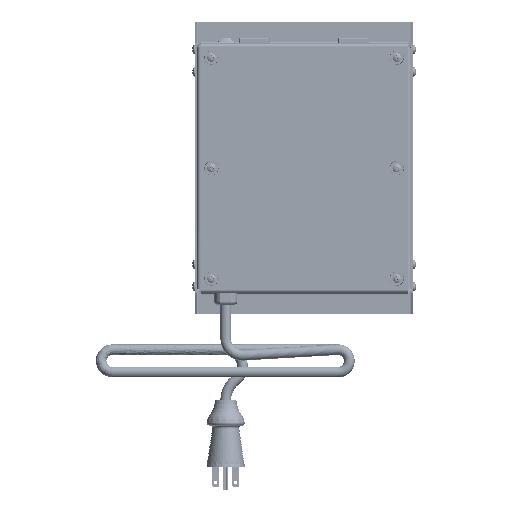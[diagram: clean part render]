
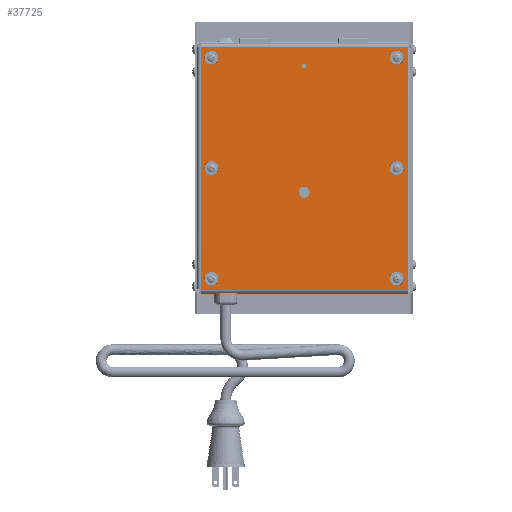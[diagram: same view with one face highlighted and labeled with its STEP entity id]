
A CAD part, front view. The second image highlights one B-rep face of the part: STEP entity #37725.
In plain terms, the highlighted planar face has unit normal (0, -1, 0).
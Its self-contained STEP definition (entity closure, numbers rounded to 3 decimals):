
#312=CIRCLE('',#39541,0.107);
#314=CIRCLE('',#39544,0.107);
#316=CIRCLE('',#39547,0.107);
#318=CIRCLE('',#39550,0.082);
#320=CIRCLE('',#39553,0.107);
#322=CIRCLE('',#39556,0.107);
#324=CIRCLE('',#39559,0.107);
#326=CIRCLE('',#39562,0.193);
#2933=FACE_BOUND('',#7794,.T.);
#2934=FACE_BOUND('',#7795,.T.);
#2935=FACE_BOUND('',#7796,.T.);
#2936=FACE_BOUND('',#7797,.T.);
#2937=FACE_BOUND('',#7798,.T.);
#2938=FACE_BOUND('',#7799,.T.);
#2939=FACE_BOUND('',#7800,.T.);
#2940=FACE_BOUND('',#7801,.T.);
#5829=FACE_OUTER_BOUND('',#7793,.T.);
#7793=EDGE_LOOP('',(#28886,#28887,#28888,#28889));
#7794=EDGE_LOOP('',(#28890));
#7795=EDGE_LOOP('',(#28891));
#7796=EDGE_LOOP('',(#28892));
#7797=EDGE_LOOP('',(#28893));
#7798=EDGE_LOOP('',(#28894));
#7799=EDGE_LOOP('',(#28895));
#7800=EDGE_LOOP('',(#28896));
#7801=EDGE_LOOP('',(#28897));
#11936=LINE('',#58576,#14899);
#11961=LINE('',#58803,#14924);
#11974=LINE('',#58910,#14937);
#11975=LINE('',#58912,#14938);
#14899=VECTOR('',#45223,0.394);
#14924=VECTOR('',#45284,0.394);
#14937=VECTOR('',#45331,0.394);
#14938=VECTOR('',#45334,0.394);
#17527=VERTEX_POINT('',#58179);
#17529=VERTEX_POINT('',#58185);
#17531=VERTEX_POINT('',#58191);
#17533=VERTEX_POINT('',#58197);
#17535=VERTEX_POINT('',#58203);
#17537=VERTEX_POINT('',#58209);
#17539=VERTEX_POINT('',#58215);
#17541=VERTEX_POINT('',#58221);
#17630=VERTEX_POINT('',#58567);
#17631=VERTEX_POINT('',#58575);
#17645=VERTEX_POINT('',#58794);
#17646=VERTEX_POINT('',#58802);
#21520=EDGE_CURVE('',#17527,#17527,#312,.T.);
#21523=EDGE_CURVE('',#17529,#17529,#314,.T.);
#21526=EDGE_CURVE('',#17531,#17531,#316,.T.);
#21529=EDGE_CURVE('',#17533,#17533,#318,.T.);
#21532=EDGE_CURVE('',#17535,#17535,#320,.T.);
#21535=EDGE_CURVE('',#17537,#17537,#322,.T.);
#21538=EDGE_CURVE('',#17539,#17539,#324,.T.);
#21541=EDGE_CURVE('',#17541,#17541,#326,.T.);
#21688=EDGE_CURVE('',#17631,#17630,#11936,.T.);
#21725=EDGE_CURVE('',#17646,#17645,#11961,.T.);
#21749=EDGE_CURVE('',#17645,#17631,#11974,.T.);
#21750=EDGE_CURVE('',#17630,#17646,#11975,.T.);
#28886=ORIENTED_EDGE('',*,*,#21688,.T.);
#28887=ORIENTED_EDGE('',*,*,#21750,.T.);
#28888=ORIENTED_EDGE('',*,*,#21725,.T.);
#28889=ORIENTED_EDGE('',*,*,#21749,.T.);
#28890=ORIENTED_EDGE('',*,*,#21520,.T.);
#28891=ORIENTED_EDGE('',*,*,#21523,.T.);
#28892=ORIENTED_EDGE('',*,*,#21526,.T.);
#28893=ORIENTED_EDGE('',*,*,#21529,.T.);
#28894=ORIENTED_EDGE('',*,*,#21532,.T.);
#28895=ORIENTED_EDGE('',*,*,#21535,.T.);
#28896=ORIENTED_EDGE('',*,*,#21538,.T.);
#28897=ORIENTED_EDGE('',*,*,#21541,.T.);
#35899=PLANE('',#39681);
#37725=ADVANCED_FACE('',(#5829,#2933,#2934,#2935,#2936,#2937,#2938,#2939,
#2940),#35899,.F.);
#39541=AXIS2_PLACEMENT_3D('',#58180,#44892,#44893);
#39544=AXIS2_PLACEMENT_3D('',#58186,#44899,#44900);
#39547=AXIS2_PLACEMENT_3D('',#58192,#44906,#44907);
#39550=AXIS2_PLACEMENT_3D('',#58198,#44913,#44914);
#39553=AXIS2_PLACEMENT_3D('',#58204,#44920,#44921);
#39556=AXIS2_PLACEMENT_3D('',#58210,#44927,#44928);
#39559=AXIS2_PLACEMENT_3D('',#58216,#44934,#44935);
#39562=AXIS2_PLACEMENT_3D('',#58222,#44941,#44942);
#39681=AXIS2_PLACEMENT_3D('',#58911,#45332,#45333);
#44892=DIRECTION('center_axis',(0.,1.,0.));
#44893=DIRECTION('ref_axis',(-1.,0.,0.));
#44899=DIRECTION('center_axis',(0.,1.,0.));
#44900=DIRECTION('ref_axis',(-1.,0.,0.));
#44906=DIRECTION('center_axis',(0.,1.,0.));
#44907=DIRECTION('ref_axis',(-1.,0.,0.));
#44913=DIRECTION('center_axis',(0.,1.,0.));
#44914=DIRECTION('ref_axis',(-1.,0.,0.));
#44920=DIRECTION('center_axis',(0.,1.,0.));
#44921=DIRECTION('ref_axis',(-1.,0.,0.));
#44927=DIRECTION('center_axis',(0.,1.,0.));
#44928=DIRECTION('ref_axis',(-1.,0.,0.));
#44934=DIRECTION('center_axis',(0.,1.,0.));
#44935=DIRECTION('ref_axis',(-1.,0.,0.));
#44941=DIRECTION('center_axis',(0.,1.,0.));
#44942=DIRECTION('ref_axis',(-1.,0.,0.));
#45223=DIRECTION('',(0.,0.,-1.));
#45284=DIRECTION('',(0.,0.,1.));
#45331=DIRECTION('',(-1.,0.,0.));
#45332=DIRECTION('center_axis',(0.,1.,0.));
#45333=DIRECTION('ref_axis',(0.,0.,1.));
#45334=DIRECTION('',(1.,0.,0.));
#58179=CARTESIAN_POINT('',(-3.144,0.,3.875));
#58180=CARTESIAN_POINT('Origin',(-3.25,0.,3.875));
#58185=CARTESIAN_POINT('',(3.357,0.,0.));
#58186=CARTESIAN_POINT('Origin',(3.25,0.,0.));
#58191=CARTESIAN_POINT('',(-3.144,0.,-3.875));
#58192=CARTESIAN_POINT('Origin',(-3.25,0.,-3.875));
#58197=CARTESIAN_POINT('',(0.082,0.,3.578));
#58198=CARTESIAN_POINT('Origin',(0.,0.,3.578));
#58203=CARTESIAN_POINT('',(-3.144,0.,0.));
#58204=CARTESIAN_POINT('Origin',(-3.25,0.,0.));
#58209=CARTESIAN_POINT('',(3.357,0.,-3.875));
#58210=CARTESIAN_POINT('Origin',(3.25,0.,-3.875));
#58215=CARTESIAN_POINT('',(3.357,0.,3.875));
#58216=CARTESIAN_POINT('Origin',(3.25,0.,3.875));
#58221=CARTESIAN_POINT('',(0.193,0.,-0.846));
#58222=CARTESIAN_POINT('Origin',(0.,0.,-0.846));
#58567=CARTESIAN_POINT('',(-3.63,0.,-4.255));
#58575=CARTESIAN_POINT('',(-3.63,0.,4.255));
#58576=CARTESIAN_POINT('',(-3.63,0.,2.128));
#58794=CARTESIAN_POINT('',(3.63,0.,4.255));
#58802=CARTESIAN_POINT('',(3.63,0.,-4.255));
#58803=CARTESIAN_POINT('',(3.63,0.,-2.128));
#58910=CARTESIAN_POINT('',(1.875,0.,4.255));
#58911=CARTESIAN_POINT('Origin',(0.,0.,0.));
#58912=CARTESIAN_POINT('',(-1.875,0.,-4.255));
